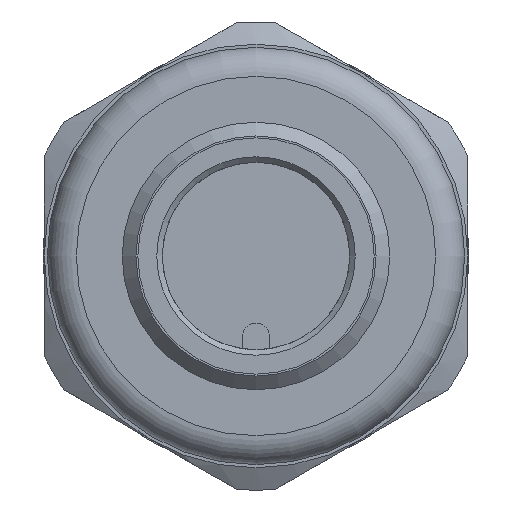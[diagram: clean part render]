
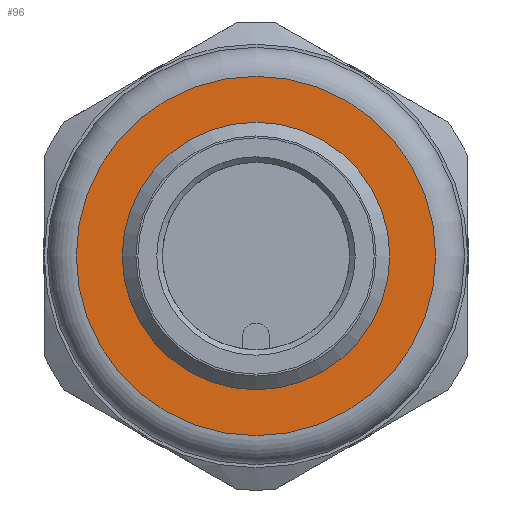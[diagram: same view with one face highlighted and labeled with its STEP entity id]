
A CAD part, left-side view. The second image highlights one B-rep face of the part: STEP entity #96.
In plain terms, the highlighted planar face has unit normal (-1, 0, 0).
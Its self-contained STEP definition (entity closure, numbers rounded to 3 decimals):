
#96 = ADVANCED_FACE( '', ( #187, #188 ), #189, .F. );
#187 = FACE_OUTER_BOUND( '', #334, .T. );
#188 = FACE_BOUND( '', #335, .T. );
#189 = PLANE( '', #336 );
#334 = EDGE_LOOP( '', ( #600 ) );
#335 = EDGE_LOOP( '', ( #601 ) );
#336 = AXIS2_PLACEMENT_3D( '', #602, #603, #604 );
#600 = ORIENTED_EDGE( '', *, *, #934, .F. );
#601 = ORIENTED_EDGE( '', *, *, #935, .T. );
#602 = CARTESIAN_POINT( '', ( -40.5, 5.65, 0. ) );
#603 = DIRECTION( '', ( 1., 0., 0. ) );
#604 = DIRECTION( '', ( 0., 0., -1. ) );
#934 = EDGE_CURVE( '', #1117, #1117, #1118, .T. );
#935 = EDGE_CURVE( '', #1119, #1119, #1120, .T. );
#1117 = VERTEX_POINT( '', #1482 );
#1118 = CIRCLE( '', #1483, 8.06 );
#1119 = VERTEX_POINT( '', #1484 );
#1120 = CIRCLE( '', #1485, 5.65 );
#1482 = CARTESIAN_POINT( '', ( -40.5, 0., -8.06 ) );
#1483 = AXIS2_PLACEMENT_3D( '', #1697, #1698, #1699 );
#1484 = CARTESIAN_POINT( '', ( -40.5, 0., -5.65 ) );
#1485 = AXIS2_PLACEMENT_3D( '', #1700, #1701, #1702 );
#1697 = CARTESIAN_POINT( '', ( -40.5, 0., 0. ) );
#1698 = DIRECTION( '', ( 1., 0., 0. ) );
#1699 = DIRECTION( '', ( 0., 0., -1. ) );
#1700 = CARTESIAN_POINT( '', ( -40.5, 0., 0. ) );
#1701 = DIRECTION( '', ( 1., 0., 0. ) );
#1702 = DIRECTION( '', ( 0., 0., -1. ) );
